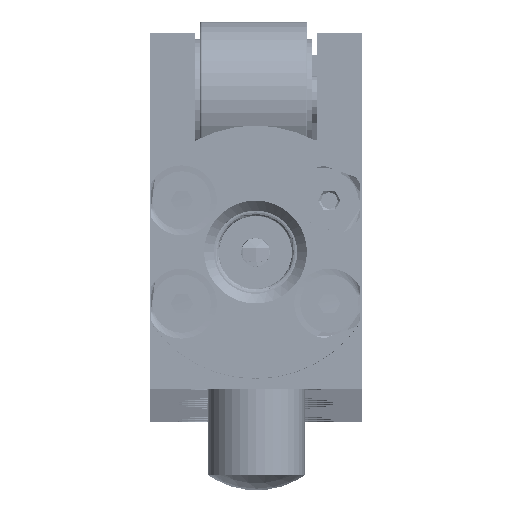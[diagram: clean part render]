
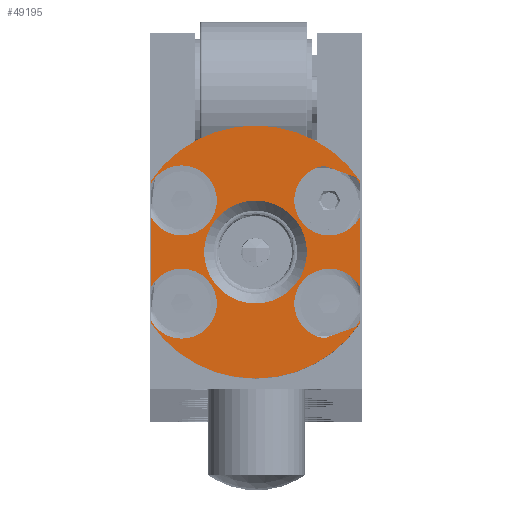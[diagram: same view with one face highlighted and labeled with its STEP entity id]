
A CAD part, top view. The second image highlights one B-rep face of the part: STEP entity #49195.
In plain terms, the highlighted planar face has unit normal (0, 0, 1).
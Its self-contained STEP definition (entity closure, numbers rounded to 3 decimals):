
#1786=FACE_BOUND('',#7630,.T.);
#2205=PLANE('',#53790);
#4642=FACE_OUTER_BOUND('',#7629,.T.);
#7629=EDGE_LOOP('',(#37077,#37078,#37079,#37080,#37081,#37082,#37083,#37084,
#37085,#37086,#37087,#37088,#37089,#37090,#37091,#37092));
#7630=EDGE_LOOP('',(#37093));
#10256=LINE('',#88569,#12048);
#10257=LINE('',#88572,#12049);
#10258=LINE('',#88576,#12050);
#10259=LINE('',#88580,#12051);
#10260=LINE('',#88584,#12052);
#10261=LINE('',#88588,#12053);
#10262=LINE('',#88592,#12054);
#10263=LINE('',#88595,#12055);
#12048=VECTOR('',#65247,10.);
#12049=VECTOR('',#65250,10.);
#12050=VECTOR('',#65253,10.);
#12051=VECTOR('',#65256,10.);
#12052=VECTOR('',#65259,10.);
#12053=VECTOR('',#65262,10.);
#12054=VECTOR('',#65265,10.);
#12055=VECTOR('',#65268,10.);
#14507=CIRCLE('',#53783,3.6);
#14510=CIRCLE('',#53786,3.6);
#14512=CIRCLE('',#53791,3.6);
#14513=CIRCLE('',#53792,3.6);
#14514=CIRCLE('',#53793,13.);
#14515=CIRCLE('',#53794,3.6);
#14516=CIRCLE('',#53795,3.6);
#14517=CIRCLE('',#53796,13.);
#14518=CIRCLE('',#53797,5.283);
#19976=VERTEX_POINT('',#88543);
#19977=VERTEX_POINT('',#88544);
#19978=VERTEX_POINT('',#88548);
#19982=VERTEX_POINT('',#88559);
#19984=VERTEX_POINT('',#88571);
#19985=VERTEX_POINT('',#88573);
#19986=VERTEX_POINT('',#88575);
#19987=VERTEX_POINT('',#88577);
#19988=VERTEX_POINT('',#88579);
#19989=VERTEX_POINT('',#88581);
#19990=VERTEX_POINT('',#88583);
#19991=VERTEX_POINT('',#88585);
#19992=VERTEX_POINT('',#88587);
#19993=VERTEX_POINT('',#88589);
#19994=VERTEX_POINT('',#88591);
#19995=VERTEX_POINT('',#88593);
#19996=VERTEX_POINT('',#88596);
#26269=EDGE_CURVE('',#19978,#19976,#14507,.T.);
#26275=EDGE_CURVE('',#19977,#19982,#14510,.T.);
#26278=EDGE_CURVE('',#19982,#19978,#10256,.T.);
#26279=EDGE_CURVE('',#19976,#19984,#10257,.T.);
#26280=EDGE_CURVE('',#19984,#19985,#14512,.T.);
#26281=EDGE_CURVE('',#19985,#19986,#10258,.T.);
#26282=EDGE_CURVE('',#19986,#19987,#14513,.T.);
#26283=EDGE_CURVE('',#19987,#19988,#10259,.T.);
#26284=EDGE_CURVE('',#19989,#19988,#14514,.T.);
#26285=EDGE_CURVE('',#19989,#19990,#10260,.T.);
#26286=EDGE_CURVE('',#19990,#19991,#14515,.T.);
#26287=EDGE_CURVE('',#19991,#19992,#10261,.T.);
#26288=EDGE_CURVE('',#19992,#19993,#14516,.T.);
#26289=EDGE_CURVE('',#19993,#19994,#10262,.T.);
#26290=EDGE_CURVE('',#19995,#19994,#14517,.T.);
#26291=EDGE_CURVE('',#19995,#19977,#10263,.T.);
#26292=EDGE_CURVE('',#19996,#19996,#14518,.T.);
#37077=ORIENTED_EDGE('',*,*,#26275,.T.);
#37078=ORIENTED_EDGE('',*,*,#26278,.T.);
#37079=ORIENTED_EDGE('',*,*,#26269,.T.);
#37080=ORIENTED_EDGE('',*,*,#26279,.T.);
#37081=ORIENTED_EDGE('',*,*,#26280,.T.);
#37082=ORIENTED_EDGE('',*,*,#26281,.T.);
#37083=ORIENTED_EDGE('',*,*,#26282,.T.);
#37084=ORIENTED_EDGE('',*,*,#26283,.T.);
#37085=ORIENTED_EDGE('',*,*,#26284,.F.);
#37086=ORIENTED_EDGE('',*,*,#26285,.T.);
#37087=ORIENTED_EDGE('',*,*,#26286,.T.);
#37088=ORIENTED_EDGE('',*,*,#26287,.T.);
#37089=ORIENTED_EDGE('',*,*,#26288,.T.);
#37090=ORIENTED_EDGE('',*,*,#26289,.T.);
#37091=ORIENTED_EDGE('',*,*,#26290,.F.);
#37092=ORIENTED_EDGE('',*,*,#26291,.T.);
#37093=ORIENTED_EDGE('',*,*,#26292,.F.);
#49195=ADVANCED_FACE('',(#4642,#1786),#2205,.T.);
#53783=AXIS2_PLACEMENT_3D('',#88549,#65231,#65232);
#53786=AXIS2_PLACEMENT_3D('',#88563,#65238,#65239);
#53790=AXIS2_PLACEMENT_3D('',#88570,#65248,#65249);
#53791=AXIS2_PLACEMENT_3D('',#88574,#65251,#65252);
#53792=AXIS2_PLACEMENT_3D('',#88578,#65254,#65255);
#53793=AXIS2_PLACEMENT_3D('',#88582,#65257,#65258);
#53794=AXIS2_PLACEMENT_3D('',#88586,#65260,#65261);
#53795=AXIS2_PLACEMENT_3D('',#88590,#65263,#65264);
#53796=AXIS2_PLACEMENT_3D('',#88594,#65266,#65267);
#53797=AXIS2_PLACEMENT_3D('',#88597,#65269,#65270);
#65231=DIRECTION('center_axis',(0.,0.,-1.));
#65232=DIRECTION('ref_axis',(-0.342,0.94,0.));
#65238=DIRECTION('center_axis',(0.,0.,-1.));
#65239=DIRECTION('ref_axis',(-0.342,0.94,0.));
#65247=DIRECTION('',(-0.94,-0.342,0.));
#65248=DIRECTION('center_axis',(0.,0.,1.));
#65249=DIRECTION('ref_axis',(1.,0.,0.));
#65250=DIRECTION('',(0.,1.,0.));
#65251=DIRECTION('center_axis',(0.,0.,-1.));
#65252=DIRECTION('ref_axis',(-0.342,-0.94,0.));
#65253=DIRECTION('',(0.94,-0.342,0.));
#65254=DIRECTION('center_axis',(0.,0.,-1.));
#65255=DIRECTION('ref_axis',(-0.342,-0.94,0.));
#65256=DIRECTION('',(0.,1.,0.));
#65257=DIRECTION('center_axis',(0.,0.,-1.));
#65258=DIRECTION('ref_axis',(0.,1.,0.));
#65259=DIRECTION('',(0.,-1.,0.));
#65260=DIRECTION('center_axis',(0.,0.,-1.));
#65261=DIRECTION('ref_axis',(1.,0.,0.));
#65262=DIRECTION('',(0.,-1.,0.));
#65263=DIRECTION('center_axis',(0.,0.,-1.));
#65264=DIRECTION('ref_axis',(1.,0.,0.));
#65265=DIRECTION('',(0.,-1.,0.));
#65266=DIRECTION('center_axis',(0.,0.,-1.));
#65267=DIRECTION('ref_axis',(0.,1.,0.));
#65268=DIRECTION('',(0.,1.,0.));
#65269=DIRECTION('center_axis',(0.,0.,1.));
#65270=DIRECTION('ref_axis',(-1.,0.,0.));
#88543=CARTESIAN_POINT('',(10.7,-7.855,1496.));
#88544=CARTESIAN_POINT('',(10.7,-11.256,1496.));
#88548=CARTESIAN_POINT('',(7.014,-13.119,1496.));
#88549=CARTESIAN_POINT('Origin',(7.527,-9.556,1496.));
#88559=CARTESIAN_POINT('',(10.211,-11.955,1496.));
#88563=CARTESIAN_POINT('Origin',(7.527,-9.556,1496.));
#88569=CARTESIAN_POINT('',(8.106,-12.721,1496.));
#88570=CARTESIAN_POINT('Origin',(-0.05,2.25,1496.));
#88571=CARTESIAN_POINT('',(10.7,-0.645,1496.));
#88572=CARTESIAN_POINT('',(10.7,-4.655,1496.));
#88573=CARTESIAN_POINT('',(7.014,4.619,1496.));
#88574=CARTESIAN_POINT('Origin',(7.527,1.056,1496.));
#88575=CARTESIAN_POINT('',(10.211,3.455,1496.));
#88576=CARTESIAN_POINT('',(6.017,4.982,1496.));
#88577=CARTESIAN_POINT('',(10.7,2.756,1496.));
#88578=CARTESIAN_POINT('Origin',(7.527,1.056,1496.));
#88579=CARTESIAN_POINT('',(10.7,3.06,1496.));
#88580=CARTESIAN_POINT('',(10.7,-4.655,1496.));
#88581=CARTESIAN_POINT('',(-10.8,3.06,1496.));
#88582=CARTESIAN_POINT('Origin',(-0.05,-4.25,1496.));
#88583=CARTESIAN_POINT('',(-10.8,2.756,1496.));
#88584=CARTESIAN_POINT('',(-10.8,2.655,1496.));
#88585=CARTESIAN_POINT('',(-10.8,-0.645,1496.));
#88586=CARTESIAN_POINT('Origin',(-7.627,1.056,1496.));
#88587=CARTESIAN_POINT('',(-10.8,-7.855,1496.));
#88588=CARTESIAN_POINT('',(-10.8,2.655,1496.));
#88589=CARTESIAN_POINT('',(-10.8,-11.256,1496.));
#88590=CARTESIAN_POINT('Origin',(-7.627,-9.556,1496.));
#88591=CARTESIAN_POINT('',(-10.8,-11.56,1496.));
#88592=CARTESIAN_POINT('',(-10.8,2.655,1496.));
#88593=CARTESIAN_POINT('',(10.7,-11.56,1496.));
#88594=CARTESIAN_POINT('Origin',(-0.05,-4.25,1496.));
#88595=CARTESIAN_POINT('',(10.7,-4.655,1496.));
#88596=CARTESIAN_POINT('',(5.233,-4.25,1496.));
#88597=CARTESIAN_POINT('Origin',(-0.05,-4.25,1496.));
